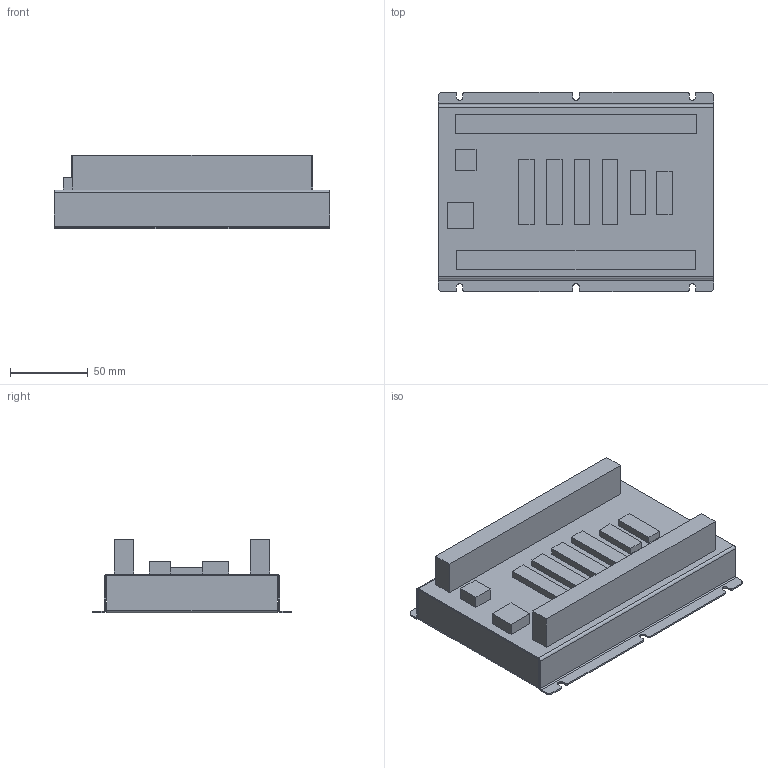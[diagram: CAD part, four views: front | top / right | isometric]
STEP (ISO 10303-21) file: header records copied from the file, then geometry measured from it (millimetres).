
FILE_DESCRIPTION (( 'STEP AP203' ), '1' );
FILE_NAME ('gcn400a_ed_model.STEP', '2020-04-07T08:43:09', ( 'Windows 蚚誧' ), ( ' ' ), 'SwSTEP 2.0', 'SolidWorks 2014', '' );
FILE_SCHEMA (( 'CONFIG_CONTROL_DESIGN' ));
Length unit declared in the file: millimetre
Products named in the file (3): 多轴控制器GCN400A钣金（上）; 多轴控制器GCN400A钣金(下）; gcn400a_ed_model
Assembly tree (2 placements, depth 2):
  gcn400a_ed_model
    多轴控制器GCN400A钣金（上）
    多轴控制器GCN400A钣金(下）
Bounding box: 178 x 129 x 47.5 mm (x, y, z)
Volume: 164379.9 mm3; surface area: 146816.3 mm2
Topology: 2 solids, 2 shells, 174 faces, 420 edges, 260 vertices
Faces by surface type: plane 132, cylinder 42
Entity records: 5285 total; most frequent: DIRECTION 866, CARTESIAN_POINT 859, ORIENTED_EDGE 840, EDGE_CURVE 420, VECTOR 332, LINE 332, AXIS2_PLACEMENT_3D 267, VERTEX_POINT 260
